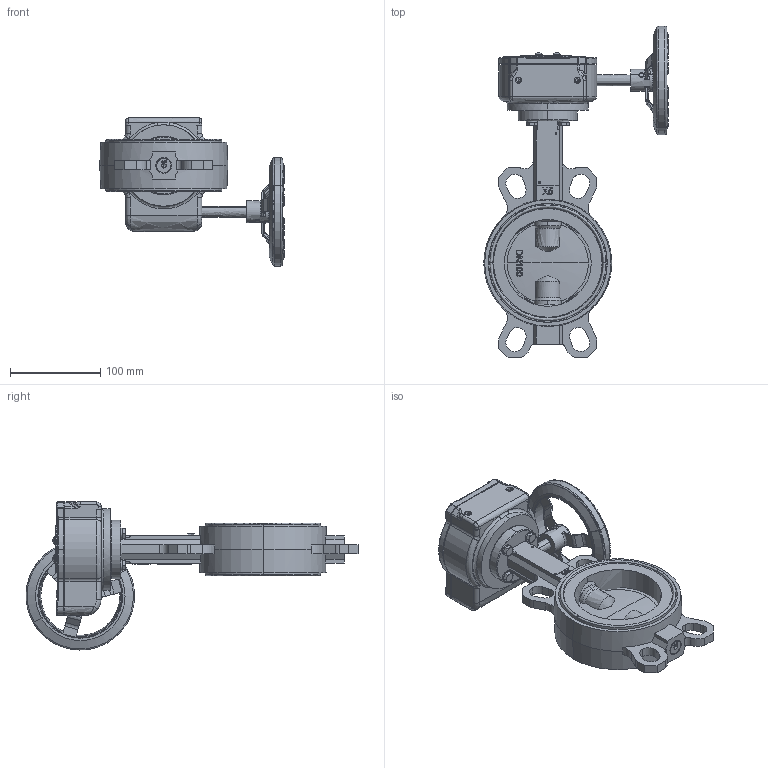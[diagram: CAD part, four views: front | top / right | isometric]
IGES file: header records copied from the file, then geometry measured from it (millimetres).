
Start section: SolidWorks IGES file using NURBS representation for surfaces
Global section: file name: H:\BE BIBLIOTHEQUE 3D\Projet_Biblio3D_2016\FSK\VPI\VPI-02\VPI-08 DN100.Igs; native system: SolidWorks 2014; preprocessor: SolidWorks 2014; author: a.cartier; date: 160929.160023; units: millimetre
Bounding box: 203.83 x 367 x 163.75 mm (x, y, z)
Volume: 1101947.8 mm3; surface area: 329385.9 mm2
Topology: 32 solids, 34 shells, 2621 faces, 6827 edges, 4279 vertices
Faces by surface type: bspline 2621
